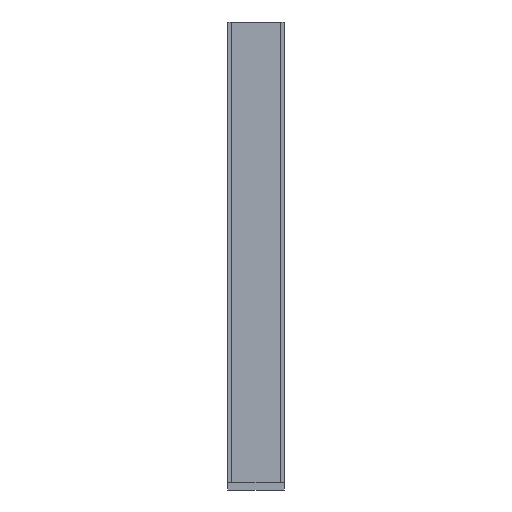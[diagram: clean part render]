
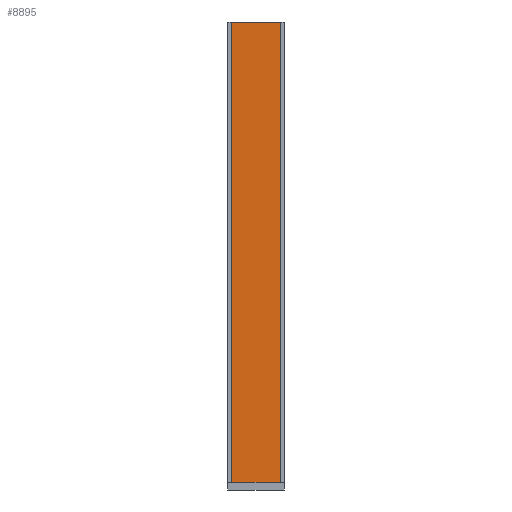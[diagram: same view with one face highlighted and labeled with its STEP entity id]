
A CAD part, left-side view. The second image highlights one B-rep face of the part: STEP entity #8895.
In plain terms, the highlighted free-form (B-spline) face has degree [1, 1] with [2, 2] control points.
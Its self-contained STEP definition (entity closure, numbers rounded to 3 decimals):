
#8860=CARTESIAN_POINT('',(-30.5,32.,10.));
#8861=CARTESIAN_POINT('',(-30.5,32.,610.));
#8862=CARTESIAN_POINT('',(-30.5,-32.,10.));
#8863=CARTESIAN_POINT('',(-30.5,-32.,610.));
#8864=B_SPLINE_SURFACE_WITH_KNOTS('',1,1,((#8860,#8861),(#8862,#8863)),.UNSPECIFIED.,.F.,.F.,.U.,(2,2),(2,2),(-0.032,0.032),(-0.295,0.305),.UNSPECIFIED.);
#8865=CARTESIAN_POINT('',(-30.5,32.,610.));
#8866=VERTEX_POINT('',#8865);
#8867=CARTESIAN_POINT('',(-30.5,-32.,610.));
#8868=VERTEX_POINT('',#8867);
#8869=CARTESIAN_POINT('',(-30.5,32.,610.));
#8870=CARTESIAN_POINT('',(-30.5,-32.,610.));
#8871=B_SPLINE_CURVE_WITH_KNOTS('',1,(#8869,#8870),.UNSPECIFIED.,.F.,.F.,(2,2),(0.,0.064),.UNSPECIFIED.);
#8872=EDGE_CURVE('',#8866,#8868,#8871,.T.);
#8873=ORIENTED_EDGE('',*,*,#8872,.T.);
#8874=CARTESIAN_POINT('',(-30.5,-32.,10.));
#8875=VERTEX_POINT('',#8874);
#8876=CARTESIAN_POINT('',(-30.5,-32.,610.));
#8877=CARTESIAN_POINT('',(-30.5,-32.,10.));
#8878=B_SPLINE_CURVE_WITH_KNOTS('',1,(#8876,#8877),.UNSPECIFIED.,.F.,.F.,(2,2),(0.,0.6),.UNSPECIFIED.);
#8879=EDGE_CURVE('',#8868,#8875,#8878,.T.);
#8880=ORIENTED_EDGE('',*,*,#8879,.T.);
#8881=CARTESIAN_POINT('',(-30.5,32.,10.));
#8882=VERTEX_POINT('',#8881);
#8883=CARTESIAN_POINT('',(-30.5,-32.,10.));
#8884=CARTESIAN_POINT('',(-30.5,32.,10.));
#8885=B_SPLINE_CURVE_WITH_KNOTS('',1,(#8883,#8884),.UNSPECIFIED.,.F.,.F.,(2,2),(-0.,0.064),.UNSPECIFIED.);
#8886=EDGE_CURVE('',#8875,#8882,#8885,.T.);
#8887=ORIENTED_EDGE('',*,*,#8886,.T.);
#8888=CARTESIAN_POINT('',(-30.5,32.,10.));
#8889=CARTESIAN_POINT('',(-30.5,32.,610.));
#8890=B_SPLINE_CURVE_WITH_KNOTS('',1,(#8888,#8889),.UNSPECIFIED.,.F.,.F.,(2,2),(0.,0.6),.UNSPECIFIED.);
#8891=EDGE_CURVE('',#8882,#8866,#8890,.T.);
#8892=ORIENTED_EDGE('',*,*,#8891,.T.);
#8893=EDGE_LOOP('',(#8873,#8880,#8887,#8892));
#8894=FACE_BOUND('',#8893,.T.);
#8895=ADVANCED_FACE('',(#8894),#8864,.F.);
